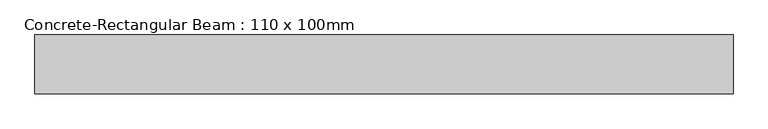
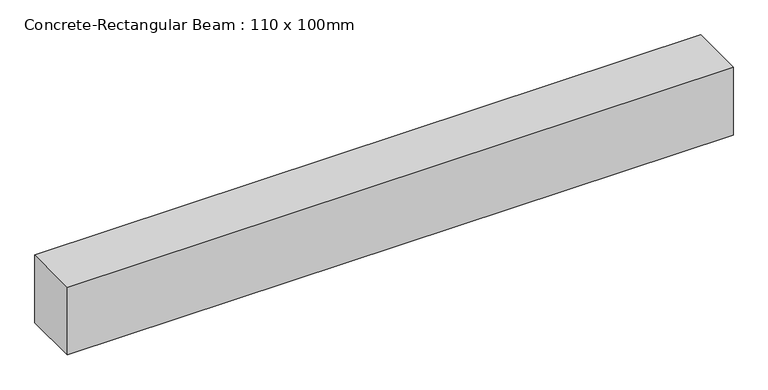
"""IFC4 building model written with IfcOpenShell, lengths in millimetres: beam geometry, Concrete-Rectangular Beam : 110 x 100mm."""

from ifc_helpers import new_model, si_unit, frame, origin, place, context, project, spatial, polyline, outline, extrude, source, transform, mapped, element, save


def concrete_rectangular_beam_110_x_100mm_fe23fbfb(model_context):
    return source(origin(), model_context, "Body", "SweptSolid", [
        extrude(outline(polyline([(650.0, 55.0), (650.0, -55.0), (-650.0, -55.0), (-650.0, 55.0), (650.0, 55.0)])), frame((0.0, 0.0, -70.0), z_axis=(0.0, 0.0, 1.0), x_axis=(1.0, 0.0, 0.0)), (0.0, 0.0, 1.0), 140.0),
    ])


if __name__ == "__main__":
    model = new_model("IFC4")
    model_context = context("Model", 3, world=origin())
    ifc_project = project(units=[si_unit("LENGTHUNIT", "METRE", prefix="MILLI")], contexts=[model_context])
    site = spatial("IfcSite", under=ifc_project)
    building = spatial("IfcBuilding", under=site)
    placement = place(None, origin())
    concrete_rectangular_beam_110_x_100mm_shape = concrete_rectangular_beam_110_x_100mm_fe23fbfb(model_context)
    element("IfcBeam", 1, ObjectType="Concrete-Rectangular Beam : 110 x 100mm", at=placement, inside=building, context=model_context, shape_type="MappedRepresentation", body=[
        mapped(concrete_rectangular_beam_110_x_100mm_shape, transform((0.0, 0.0, 0.0), x_axis=(1.0, 0.0, 0.0), y_axis=(0.0, 1.0, 0.0), z_axis=(0.0, 0.0, 1.0))),
    ])
    save(model, "model.ifc")
